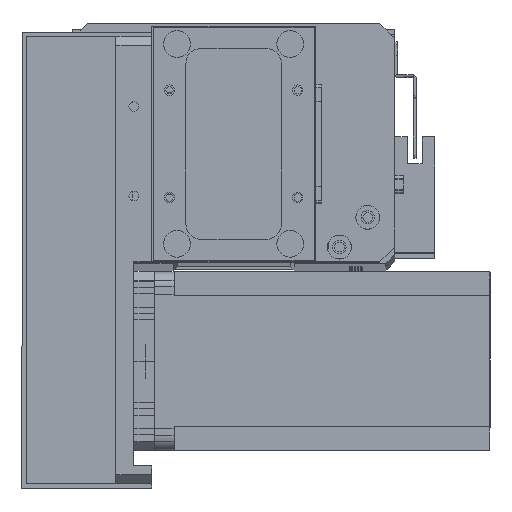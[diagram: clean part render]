
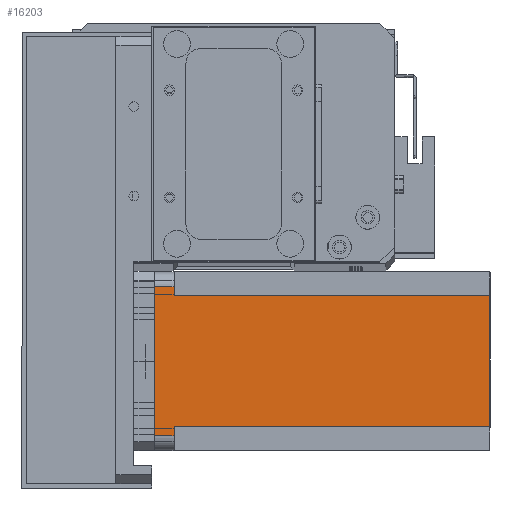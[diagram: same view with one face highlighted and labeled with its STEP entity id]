
A CAD part, top view. The second image highlights one B-rep face of the part: STEP entity #16203.
In plain terms, the highlighted planar face has unit normal (0, 0, 1) as drawn and (0, 1, 0) by its records, which use the part's own axes.
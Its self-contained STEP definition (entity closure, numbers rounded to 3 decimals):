
#591 = LINE ( 'NONE', #9324, #19384 ) ;
#1962 = CARTESIAN_POINT ( 'NONE',  ( 8., 60., -112.5 ) ) ;
#2304 = EDGE_CURVE ( 'NONE', #10424, #17835, #591, .T. ) ;
#2599 = EDGE_CURVE ( 'NONE', #22575, #7272, #6116, .T. ) ;
#2819 = ORIENTED_EDGE ( 'NONE', *, *, #17914, .T. ) ;
#3339 = ORIENTED_EDGE ( 'NONE', *, *, #27487, .F. ) ;
#5339 = VECTOR ( 'NONE', #30898, 1000. ) ;
#5358 = CARTESIAN_POINT ( 'NONE',  ( 0., 60., -112.5 ) ) ;
#5996 = LINE ( 'NONE', #10087, #30395 ) ;
#6009 = ORIENTED_EDGE ( 'NONE', *, *, #2304, .F. ) ;
#6104 = CARTESIAN_POINT ( 'NONE',  ( 5., 60., -112.5 ) ) ;
#6116 = LINE ( 'NONE', #28606, #25052 ) ;
#6700 = CARTESIAN_POINT ( 'NONE',  ( 55., 60., -6.5 ) ) ;
#7027 = EDGE_CURVE ( 'NONE', #22575, #10424, #5996, .T. ) ;
#7099 = ORIENTED_EDGE ( 'NONE', *, *, #7027, .F. ) ;
#7272 = VERTEX_POINT ( 'NONE', #24777 ) ;
#7752 = EDGE_CURVE ( 'NONE', #16023, #7272, #15243, .T. ) ;
#7887 = DIRECTION ( 'NONE',  ( 0., 0., 1. ) ) ;
#8615 = DIRECTION ( 'NONE',  ( 0., 0., 1. ) ) ;
#9008 = LINE ( 'NONE', #6104, #20921 ) ;
#9324 = CARTESIAN_POINT ( 'NONE',  ( 52., 60., -6.5 ) ) ;
#9336 = DIRECTION ( 'NONE',  ( 0., 0., 1. ) ) ;
#9535 = EDGE_LOOP ( 'NONE', ( #3339, #27611, #6009, #7099, #30233, #17008, #2819, #18193 ) ) ;
#9853 = CARTESIAN_POINT ( 'NONE',  ( 55., 60., -112.5 ) ) ;
#10087 = CARTESIAN_POINT ( 'NONE',  ( 52., 60., -112.5 ) ) ;
#10424 = VERTEX_POINT ( 'NONE', #30622 ) ;
#10873 = CARTESIAN_POINT ( 'NONE',  ( 5., 60., 0. ) ) ;
#11634 = CARTESIAN_POINT ( 'NONE',  ( 0., 60., 0. ) ) ;
#13505 = VERTEX_POINT ( 'NONE', #29725 ) ;
#13898 = VECTOR ( 'NONE', #16745, 1000. ) ;
#14052 = LINE ( 'NONE', #11634, #25562 ) ;
#14099 = DIRECTION ( 'NONE',  ( -1., 0., 0. ) ) ;
#14818 = AXIS2_PLACEMENT_3D ( 'NONE', #5358, #22152, #7887 ) ;
#14986 = VERTEX_POINT ( 'NONE', #24014 ) ;
#15207 = PLANE ( 'NONE',  #14818 ) ;
#15243 = LINE ( 'NONE', #1962, #20650 ) ;
#16023 = VERTEX_POINT ( 'NONE', #25937 ) ;
#16203 = ADVANCED_FACE ( 'NONE', ( #20185 ), #15207, .T. ) ;
#16745 = DIRECTION ( 'NONE',  ( -1., 0., 0. ) ) ;
#17008 = ORIENTED_EDGE ( 'NONE', *, *, #7752, .F. ) ;
#17527 = DIRECTION ( 'NONE',  ( 0., 0., -1. ) ) ;
#17835 = VERTEX_POINT ( 'NONE', #6700 ) ;
#17914 = EDGE_CURVE ( 'NONE', #16023, #13505, #26121, .T. ) ;
#18193 = ORIENTED_EDGE ( 'NONE', *, *, #26715, .T. ) ;
#19384 = VECTOR ( 'NONE', #25943, 1000. ) ;
#20185 = FACE_OUTER_BOUND ( 'NONE', #9535, .T. ) ;
#20650 = VECTOR ( 'NONE', #17527, 1000. ) ;
#20921 = VECTOR ( 'NONE', #8615, 1000. ) ;
#22152 = DIRECTION ( 'NONE',  ( 0., 1., 0. ) ) ;
#22575 = VERTEX_POINT ( 'NONE', #25660 ) ;
#22734 = EDGE_CURVE ( 'NONE', #14986, #17835, #30505, .T. ) ;
#24014 = CARTESIAN_POINT ( 'NONE',  ( 55., 60., 0. ) ) ;
#24777 = CARTESIAN_POINT ( 'NONE',  ( 8., 60., -112.5 ) ) ;
#25052 = VECTOR ( 'NONE', #29027, 1000. ) ;
#25562 = VECTOR ( 'NONE', #14099, 1000. ) ;
#25660 = CARTESIAN_POINT ( 'NONE',  ( 52., 60., -112.5 ) ) ;
#25730 = VERTEX_POINT ( 'NONE', #10873 ) ;
#25937 = CARTESIAN_POINT ( 'NONE',  ( 8., 60., -6.5 ) ) ;
#25943 = DIRECTION ( 'NONE',  ( 1., 0., 0. ) ) ;
#26121 = LINE ( 'NONE', #28147, #13898 ) ;
#26715 = EDGE_CURVE ( 'NONE', #13505, #25730, #9008, .T. ) ;
#27487 = EDGE_CURVE ( 'NONE', #14986, #25730, #14052, .T. ) ;
#27611 = ORIENTED_EDGE ( 'NONE', *, *, #22734, .T. ) ;
#28147 = CARTESIAN_POINT ( 'NONE',  ( 8., 60., -6.5 ) ) ;
#28606 = CARTESIAN_POINT ( 'NONE',  ( 0., 60., -112.5 ) ) ;
#29027 = DIRECTION ( 'NONE',  ( -1., 0., 0. ) ) ;
#29725 = CARTESIAN_POINT ( 'NONE',  ( 5., 60., -6.5 ) ) ;
#30233 = ORIENTED_EDGE ( 'NONE', *, *, #2599, .T. ) ;
#30395 = VECTOR ( 'NONE', #9336, 1000. ) ;
#30505 = LINE ( 'NONE', #9853, #5339 ) ;
#30622 = CARTESIAN_POINT ( 'NONE',  ( 52., 60., -6.5 ) ) ;
#30898 = DIRECTION ( 'NONE',  ( 0., 0., -1. ) ) ;
